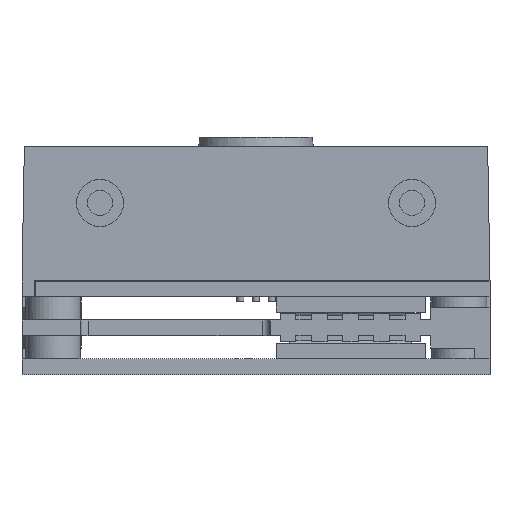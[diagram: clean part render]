
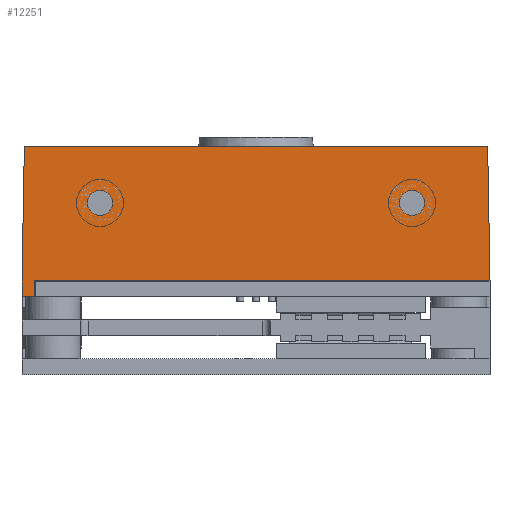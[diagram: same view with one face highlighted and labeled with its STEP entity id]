
A CAD part, front view. The second image highlights one B-rep face of the part: STEP entity #12251.
In plain terms, the highlighted planar face has unit normal (0, -1, 0).
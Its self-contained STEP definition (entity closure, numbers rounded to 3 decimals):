
#12251=ADVANCED_FACE('',(#14267,#14268,#14269),#13761,.F.);
#13761=PLANE('',#84718);
#14267=FACE_BOUND('',#16068,.T.);
#14268=FACE_BOUND('',#16069,.T.);
#14269=FACE_BOUND('',#16070,.T.);
#16068=EDGE_LOOP('',(#24454));
#16069=EDGE_LOOP('',(#24455,#24456,#24457,#24458,#24459,#24460,#24461));
#16070=EDGE_LOOP('',(#24462));
#24454=ORIENTED_EDGE('',*,*,#34033,.F.);
#24455=ORIENTED_EDGE('',*,*,#34076,.F.);
#24456=ORIENTED_EDGE('',*,*,#34057,.F.);
#24457=ORIENTED_EDGE('',*,*,#34068,.F.);
#24458=ORIENTED_EDGE('',*,*,#34031,.F.);
#24459=ORIENTED_EDGE('',*,*,#34026,.F.);
#24460=ORIENTED_EDGE('',*,*,#34074,.T.);
#24461=ORIENTED_EDGE('',*,*,#34077,.T.);
#24462=ORIENTED_EDGE('',*,*,#34024,.F.);
#29369=VERTEX_POINT('',#117548);
#29371=VERTEX_POINT('',#117552);
#29372=VERTEX_POINT('',#117554);
#29376=VERTEX_POINT('',#117564);
#29377=VERTEX_POINT('',#117568);
#29389=VERTEX_POINT('',#117635);
#29390=VERTEX_POINT('',#117637);
#29397=VERTEX_POINT('',#117705);
#29398=VERTEX_POINT('',#117709);
#34024=EDGE_CURVE('',#29369,#29369,#39074,.T.);
#34026=EDGE_CURVE('',#29371,#29372,#72627,.T.);
#34031=EDGE_CURVE('',#29372,#29376,#72631,.T.);
#34033=EDGE_CURVE('',#29377,#29377,#39076,.T.);
#34057=EDGE_CURVE('',#29389,#29390,#72647,.T.);
#34068=EDGE_CURVE('',#29376,#29389,#72653,.T.);
#34074=EDGE_CURVE('',#29371,#29397,#72658,.T.);
#34076=EDGE_CURVE('',#29390,#29398,#72660,.T.);
#34077=EDGE_CURVE('',#29397,#29398,#72661,.T.);
#39074=CIRCLE('',#84684,0.8);
#39076=CIRCLE('',#84689,0.8);
#72627=LINE('',#117553,#78501);
#72631=LINE('',#117563,#78505);
#72647=LINE('',#117636,#78521);
#72653=LINE('',#117693,#78527);
#72658=LINE('',#117704,#78532);
#72660=LINE('',#117708,#78534);
#72661=LINE('',#117710,#78535);
#78501=VECTOR('',#101572,1.);
#78505=VECTOR('',#101580,1.);
#78521=VECTOR('',#101632,1.);
#78527=VECTOR('',#101652,1.);
#78532=VECTOR('',#101665,1.);
#78534=VECTOR('',#101669,1.);
#78535=VECTOR('',#101670,1.);
#84684=AXIS2_PLACEMENT_3D('',#117547,#101567,#101568);
#84689=AXIS2_PLACEMENT_3D('',#117567,#101584,#101585);
#84718=AXIS2_PLACEMENT_3D('',#117711,#101671,#101672);
#101567=DIRECTION('',(0.,-1.,0.));
#101568=DIRECTION('',(0.,0.,1.));
#101572=DIRECTION('',(-1.,0.,0.));
#101580=DIRECTION('',(0.,0.,1.));
#101584=DIRECTION('',(0.,-1.,0.));
#101585=DIRECTION('',(0.,0.,1.));
#101632=DIRECTION('',(1.,0.,0.));
#101652=DIRECTION('',(0.017,0.,1.));
#101665=DIRECTION('',(0.,0.,1.));
#101669=DIRECTION('',(0.017,0.,-1.));
#101670=DIRECTION('',(1.,0.,0.));
#101671=DIRECTION('',(0.,1.,0.));
#101672=DIRECTION('',(0.,0.,1.));
#117547=CARTESIAN_POINT('',(10.,0.,5.));
#117548=CARTESIAN_POINT('',(10.,0.,5.8));
#117552=CARTESIAN_POINT('',(-14.2,0.,-1.));
#117553=CARTESIAN_POINT('',(-15.,0.,-1.));
#117554=CARTESIAN_POINT('',(-15.,0.,-1.));
#117563=CARTESIAN_POINT('',(-15.,0.,8.9));
#117564=CARTESIAN_POINT('',(-15.,0.,0.));
#117567=CARTESIAN_POINT('',(-10.,0.,5.));
#117568=CARTESIAN_POINT('',(-10.,0.,5.8));
#117635=CARTESIAN_POINT('',(-14.85,0.,8.6));
#117636=CARTESIAN_POINT('',(-15.,0.,8.6));
#117637=CARTESIAN_POINT('',(14.85,0.,8.6));
#117693=CARTESIAN_POINT('',(-15.,0.,0.));
#117704=CARTESIAN_POINT('',(-14.2,0.,8.9));
#117705=CARTESIAN_POINT('',(-14.2,0.,0.));
#117708=CARTESIAN_POINT('',(15.,0.,0.));
#117709=CARTESIAN_POINT('',(15.,0.,0.));
#117710=CARTESIAN_POINT('',(-15.,0.,0.));
#117711=CARTESIAN_POINT('',(-15.,0.,79.2));
